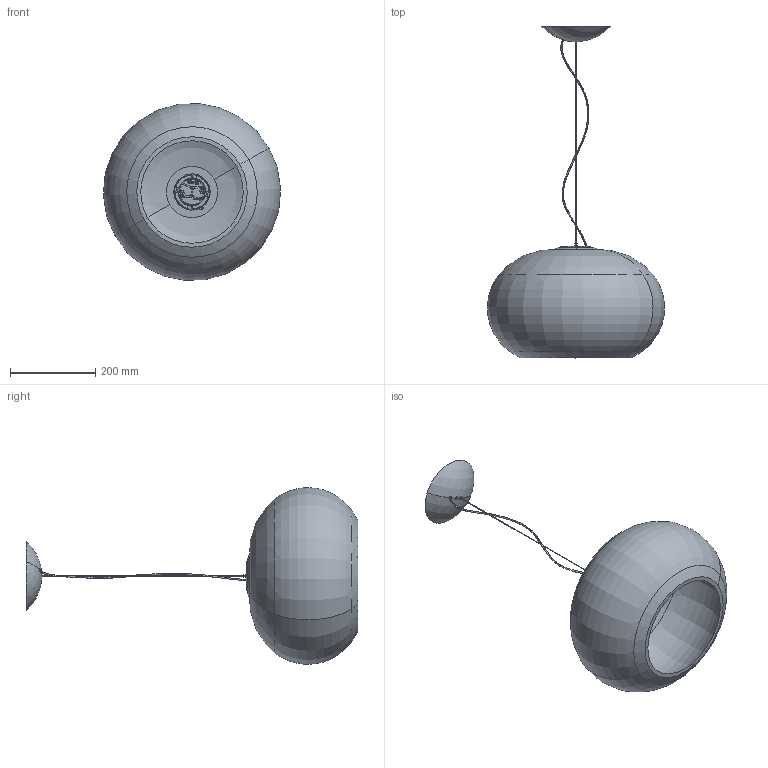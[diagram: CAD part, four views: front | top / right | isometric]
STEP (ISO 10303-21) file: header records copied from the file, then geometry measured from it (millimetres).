
FILE_DESCRIPTION (( 'STEP AP214' ), '1' );
FILE_NAME ('278_2_S_XX_3D.STEP', '2021-05-11T14:54:20', ( '' ), ( '' ), 'SwSTEP 2.0', 'SolidWorks 2021', '' );
FILE_SCHEMA (( 'AUTOMOTIVE_DESIGN' ));
Length unit declared in the file: millimetre
Products named in the file (1): 278_2_S_XX_3D
Bounding box: 414.78 x 776.58 x 413.47 mm (x, y, z)
Volume: 1976871.2 mm3; surface area: 862613.1 mm2
Topology: 5 solids, 5 shells, 1438 faces, 3565 edges, 2075 vertices
Faces by surface type: bspline 495, plane 252, cylinder 237, torus 219, cone 144, sphere 91
Entity records: 71013 total; most frequent: CARTESIAN_POINT 25419, ORIENTED_EDGE 6934, DIRECTION 5445, EDGE_CURVE 3467, AXIS2_PLACEMENT_3D 2357, VERTEX_POINT 2067, EDGE_LOOP 1482, UNCERTAINTY_MEASURE_WITH_UNIT 1445
